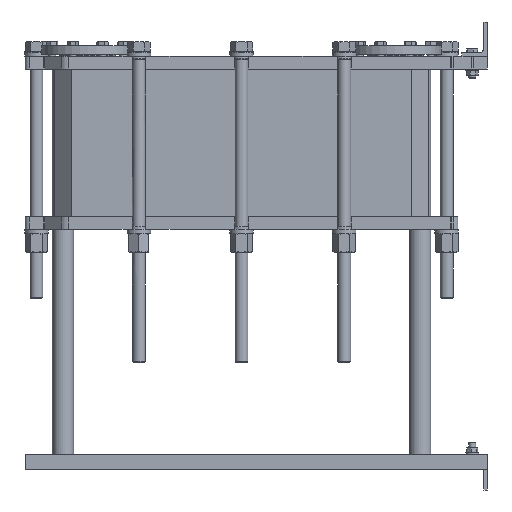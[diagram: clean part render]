
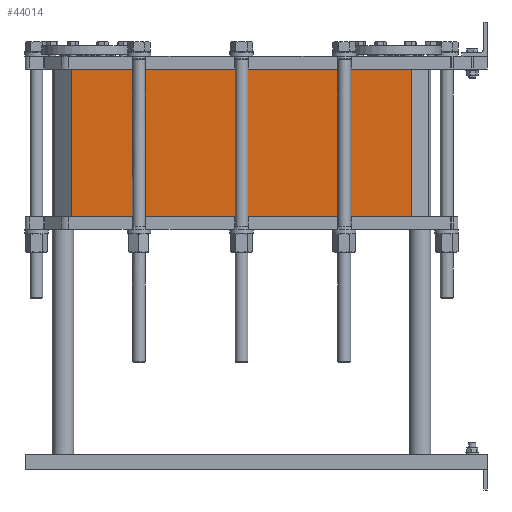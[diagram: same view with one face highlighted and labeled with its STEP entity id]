
A CAD part, left-side view. The second image highlights one B-rep face of the part: STEP entity #44014.
In plain terms, the highlighted planar face has unit normal (-1, 0, 0).
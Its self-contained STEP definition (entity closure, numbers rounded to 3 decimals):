
#2901 = CARTESIAN_POINT ( 'NONE',  ( 43.5, 971., -110. ) ) ;
#9819 = LINE ( 'NONE', #46281, #36777 ) ;
#10297 = ORIENTED_EDGE ( 'NONE', *, *, #82200, .T. ) ;
#13358 = PLANE ( 'NONE',  #93120 ) ;
#14487 = LINE ( 'NONE', #46885, #75338 ) ;
#16530 = EDGE_CURVE ( 'NONE', #24184, #67550, #78797, .T. ) ;
#17693 = CARTESIAN_POINT ( 'NONE',  ( 43.5, 178., -110. ) ) ;
#19605 = DIRECTION ( 'NONE',  ( 0., -1., 0. ) ) ;
#21716 = DIRECTION ( 'NONE',  ( -1., 0., 0. ) ) ;
#23641 = VERTEX_POINT ( 'NONE', #95511 ) ;
#24184 = VERTEX_POINT ( 'NONE', #17693 ) ;
#28262 = VECTOR ( 'NONE', #83283, 1000. ) ;
#31343 = ORIENTED_EDGE ( 'NONE', *, *, #54650, .F. ) ;
#32490 = ORIENTED_EDGE ( 'NONE', *, *, #97492, .F. ) ;
#35295 = LINE ( 'NONE', #2901, #28262 ) ;
#36777 = VECTOR ( 'NONE', #109638, 1000. ) ;
#39905 = DIRECTION ( 'NONE',  ( 0., 1., 0. ) ) ;
#44014 = ADVANCED_FACE ( 'NONE', ( #101589 ), #13358, .T. ) ;
#46281 = CARTESIAN_POINT ( 'NONE',  ( 43.5, 971., -455. ) ) ;
#46885 = CARTESIAN_POINT ( 'NONE',  ( 43.5, 971., -110. ) ) ;
#54650 = EDGE_CURVE ( 'NONE', #23641, #24184, #14487, .T. ) ;
#62787 = ORIENTED_EDGE ( 'NONE', *, *, #16530, .F. ) ;
#67550 = VERTEX_POINT ( 'NONE', #101810 ) ;
#70300 = DIRECTION ( 'NONE',  ( 0., 0., -1. ) ) ;
#72032 = EDGE_LOOP ( 'NONE', ( #31343, #10297, #32490, #62787 ) ) ;
#75338 = VECTOR ( 'NONE', #19605, 1000. ) ;
#78797 = LINE ( 'NONE', #115461, #81625 ) ;
#81625 = VECTOR ( 'NONE', #70300, 1000. ) ;
#82200 = EDGE_CURVE ( 'NONE', #23641, #112738, #35295, .T. ) ;
#83283 = DIRECTION ( 'NONE',  ( 0., 0., -1. ) ) ;
#92223 = CARTESIAN_POINT ( 'NONE',  ( 43.5, 971., -455. ) ) ;
#93120 = AXIS2_PLACEMENT_3D ( 'NONE', #111940, #21716, #39905 ) ;
#95511 = CARTESIAN_POINT ( 'NONE',  ( 43.5, 971., -110. ) ) ;
#97492 = EDGE_CURVE ( 'NONE', #67550, #112738, #9819, .T. ) ;
#101589 = FACE_OUTER_BOUND ( 'NONE', #72032, .T. ) ;
#101810 = CARTESIAN_POINT ( 'NONE',  ( 43.5, 178., -455. ) ) ;
#109638 = DIRECTION ( 'NONE',  ( 0., 1., 0. ) ) ;
#111940 = CARTESIAN_POINT ( 'NONE',  ( 43.5, 178., -110. ) ) ;
#112738 = VERTEX_POINT ( 'NONE', #92223 ) ;
#115461 = CARTESIAN_POINT ( 'NONE',  ( 43.5, 178., -110. ) ) ;
